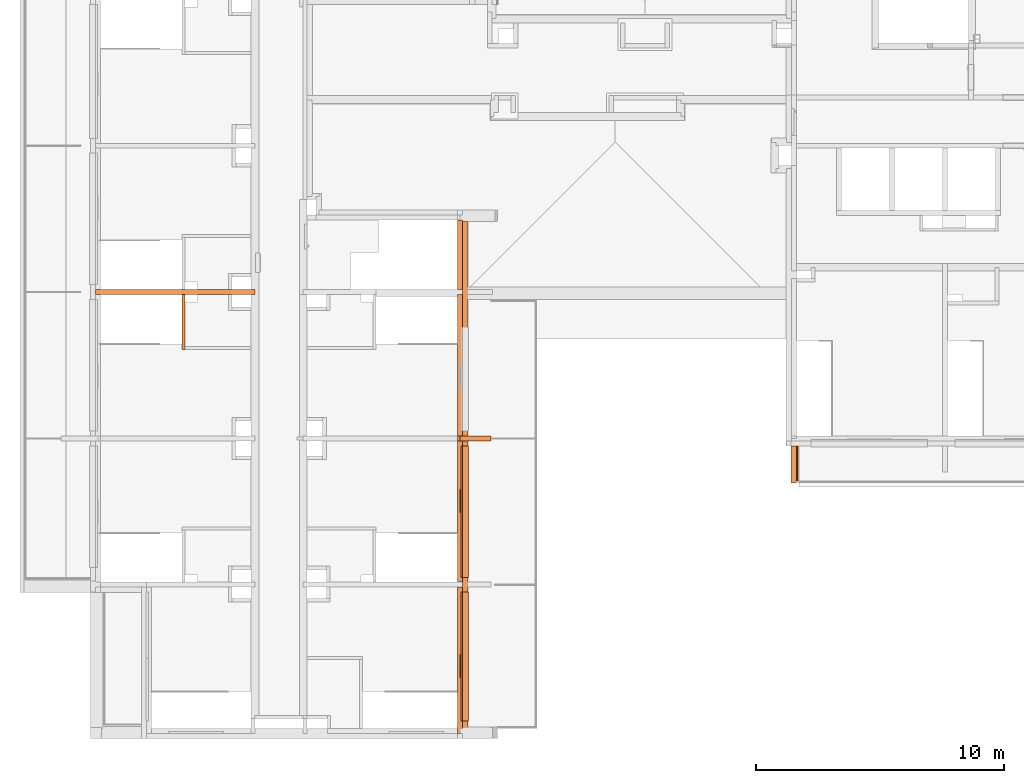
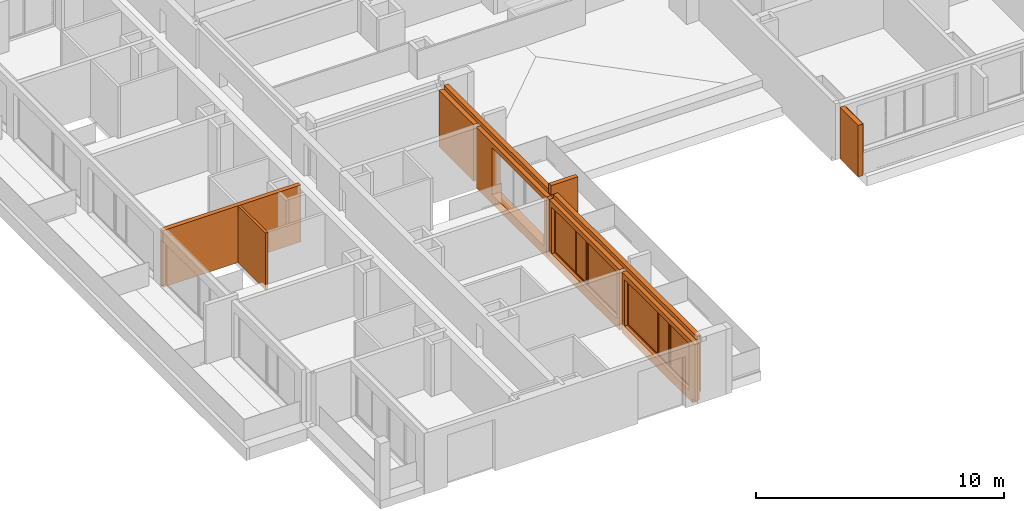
# One storey, part 16 of 30: 8 proxies, 4 openings.
"""IFC2X3 building model written with IfcOpenShell, lengths in millimetres."""

from ifc_helpers import new_model, entity, si_unit, converted_unit, derived_unit, money_unit, direction, frame, origin_with_axes, origin_2d_with_axis, place, context, subcontext, project, spatial, polyline, rectangle, outline, extrude, open_shell, faceted_brep, surface_model, material, material_list, type_object, element, fill, save


model = new_model("IFC2X3")

# Units and contexts
model_context = context("Model", 3, precision=0.01, world=origin_with_axes(), true_north=direction((0.34421633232, 0.938890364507)))
body_context = subcontext(model_context, "Body", "Model", "MODEL_VIEW")
ifc_project = project(units=[si_unit("LENGTHUNIT", "METRE", prefix="MILLI"), si_unit("AREAUNIT", "SQUARE_METRE"), si_unit("VOLUMEUNIT", "CUBIC_METRE"), converted_unit("PLANEANGLEUNIT", "DEGREE", entity("IfcPlaneAngleMeasure", 0.0174532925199), si_unit("PLANEANGLEUNIT", "RADIAN"), dimensions=[0, 0, 0, 0, 0, 0, 0]), si_unit("SOLIDANGLEUNIT", "STERADIAN"), money_unit("USD"), converted_unit("TIMEUNIT", "Year", entity("IfcTimeMeasure", 31556926.0), si_unit("TIMEUNIT", "SECOND"), dimensions=[0, 0, 1, 0, 0, 0, 0]), si_unit("MASSUNIT", "GRAM", prefix="KILO"), si_unit("THERMODYNAMICTEMPERATUREUNIT", "DEGREE_CELSIUS"), si_unit("LUMINOUSINTENSITYUNIT", "LUMEN"), si_unit("ENERGYUNIT", "JOULE", prefix="MEGA"), derived_unit("THERMALCONDUCTANCEUNIT", [(si_unit("POWERUNIT", "WATT"), 1), (si_unit("LENGTHUNIT", "METRE"), -1), (si_unit("THERMODYNAMICTEMPERATUREUNIT", "KELVIN"), -1)]), derived_unit("SPECIFICHEATCAPACITYUNIT", [(si_unit("ENERGYUNIT", "JOULE"), 1), (si_unit("MASSUNIT", "GRAM", prefix="KILO"), -1), (si_unit("THERMODYNAMICTEMPERATUREUNIT", "KELVIN"), -1)]), derived_unit("MASSDENSITYUNIT", [(si_unit("MASSUNIT", "GRAM", prefix="KILO"), 1), (si_unit("VOLUMEUNIT", "CUBIC_METRE"), -1)])], contexts=[model_context])

# Site, building, storey
site_placement = place(None, origin_with_axes())
site = spatial("IfcSite", under=ifc_project, at=site_placement, Name="USTRONIE MORSKIE", CompositionType="ELEMENT")
building_placement = place(site_placement, origin_with_axes())
building = spatial("IfcBuilding", under=site, at=building_placement, Name="Budynek", CompositionType="ELEMENT")
storey_placement = place(building_placement, frame((0.0, 0.0, 16000.0), z_axis=(0.0, 0.0, 1.0), x_axis=(1.0, 0.0, 0.0)))
storey = spatial("IfcBuildingStorey", under=building, at=storey_placement, Name="ANTRESOLA - KOND. TECHNICZNA", CompositionType="ELEMENT", Elevation=16000.0)

# Proxy
ifc_material_1 = material(Name="Bloczki silikatowe")
building_element_proxy_type_1 = type_object("IfcBuildingElementProxyType", Name="Bloczki silikatowe 120", PredefinedType="NOTDEFINED")
proxy_1_placement = place(storey_placement, frame((354717.920919, 724641.180542, -159.999998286), z_axis=(0.0, 0.0, 1.0), x_axis=(0.0, 1.0, 0.0)))
element("IfcBuildingElementProxy", 1, at=proxy_1_placement, inside=storey, type_object=building_element_proxy_type_1, material=ifc_material_1, Name="SW-04", context=body_context, shape_type="Brep", body=[
    faceted_brep([(2160.01849378, 60.0, 0.0), (2160.01849378, -60.0, 0.0), (-59.9999999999, -60.0, 0.0), (-59.9999999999, 60.0, 0.0), (2160.01849378, 60.0, 2799.99999829), (2160.01849378, -60.0, 2799.99999829), (-59.9999999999, -60.0, 2799.99999829), (-59.9999999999, 60.0, 2799.99999829)], [[[0, 1, 2, 3]], [[1, 0, 4, 5]], [[1, 5, 6, 2]], [[7, 3, 2, 6]], [[4, 0, 3, 7]], [[5, 4, 7, 6]]]),
])

# Proxies, openings
ifc_material_2 = material(Name="Beton konstrukcyjny B25")
ifc_material_3 = material(Name="Wełna ELEW")
ifc_material_4 = material(Name="Tynk zewnętrzny")
ifc_material_list_1 = material_list([ifc_material_2, ifc_material_3, ifc_material_4])
building_element_proxy_type_2 = type_object("IfcBuildingElementProxyType", Name="20+20 410", PredefinedType="NOTDEFINED")
proxy_2_placement = place(storey_placement, frame((365867.920919, 709201.199036, -359.999998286), z_axis=(0.0, 0.0, 1.0), x_axis=(0.0, 1.0, 0.0)))
proxy_2 = element("IfcBuildingElementProxy", 2, at=proxy_2_placement, inside=storey, type_object=building_element_proxy_type_2, material=ifc_material_list_1, Name="SZ-01", context=body_context, shape_type="Brep", body=[
    faceted_brep([(5800.0, 100.0, 2999.99999829), (5800.0, -100.0, 2999.99999829), (5800.0, -100.0, 0.0), (5800.0, 100.0, 0.0), (-99.9999999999, -100.0, 2999.99999829), (-99.9999999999, 100.0, 2999.99999829), (-100.0, -100.0, 199.999998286), (100.0, -100.0, 199.999998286), (100.0, -100.0, 0.0), (100.0, 100.0, 0.0), (100.0, 100.0, 199.999998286), (-100.0, 100.0, 199.999998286)], [[[0, 1, 2, 3]], [[4, 1, 0, 5]], [[1, 4, 6, 7, 8, 2]], [[2, 8, 9, 3]], [[5, 0, 3, 9, 10, 11]], [[4, 5, 11, 6]], [[7, 6, 11, 10]], [[9, 8, 7, 10]]]),
    faceted_brep([(20599.9996361, 100.000014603, 2999.99999829), (20599.9996361, -100.0, 2999.99999829), (20599.9996361, -100.0, 199.999998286), (20599.9996361, 99.9999979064, 199.999998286), (17799.999988, -100.0, 2999.99999829), (17799.999988, 99.9999989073, 2999.99999829), (17799.9998197, -100.0, 199.999998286), (17799.9998197, 99.9999836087, 199.999998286)], [[[0, 1, 2, 3]], [[4, 1, 0, 5]], [[1, 4, 6, 2]], [[3, 2, 6, 7]], [[5, 0, 3, 7]], [[4, 5, 7, 6]]]),
    faceted_brep([(11700.0, 99.9999842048, 2999.99999829), (11700.0, -100.0, 2999.99999829), (11700.0, -100.0, 179.999998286), (11700.0, 99.9999842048, 179.999998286), (6000.0, -100.0, 2999.99999829), (6000.0, 100.0, 2999.99999829), (17600.0, -100.0, 2999.99999829), (11900.0225213, -100.0, 2999.99999829), (11900.0225213, -100.0, 199.999998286), (11900.0, -100.0, 199.999998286), (11900.0, -100.0, 179.999998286), (6000.0, -100.0, 0.0), (17600.0, -100.0, 0.0), (11900.0, 99.9999842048, 179.999998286), (11900.0223371, 100.0, 2999.99999829), (17600.0, 100.0, 2999.99999829), (17600.0, 100.0, 0.0), (6000.0, 100.0, 0.0), (11900.0, 99.9999842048, 199.999998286), (11900.0223371, 100.0, 199.999998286)], [[[0, 1, 2, 3]], [[4, 1, 0, 5]], [[6, 7, 8, 9, 10, 2, 1, 4, 11, 12]], [[3, 2, 10, 13]], [[14, 15, 16, 17, 5, 0, 3, 13, 18, 19]], [[4, 5, 17, 11]], [[7, 6, 15, 14]], [[7, 14, 19, 8]], [[19, 18, 9, 8]], [[13, 10, 9, 18]], [[12, 11, 17, 16]], [[15, 6, 12, 16]]]),
    faceted_brep([(100.0, -300.0, 440.0), (11700.0, -300.0, 440.0), (11700.0, -300.0, 3199.99999829), (100.0, -300.0, 3199.99999829), (11700.0, -99.9999091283, 440.0), (100.0, -99.9999091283, 440.0), (11700.0, -100.0, 3199.99999829), (100.0, -100.0, 3199.99999829)], [[[0, 1, 2, 3]], [[4, 1, 0, 5]], [[1, 4, 6, 2]], [[3, 2, 6, 7]], [[5, 0, 3, 7]], [[4, 5, 7, 6]]]),
    faceted_brep([(17600.0, -300.0, 440.0), (17600.0, -300.0, 205.0), (20549.9996361, -300.0, 204.999998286), (20549.9996361, -300.0, 3199.99999829), (11900.0, -300.0, 3199.99999829), (11900.0, -300.0, 440.0), (17600.0, -99.9999091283, 440.0), (17600.0, -99.9999091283, 0.0), (17600.0, -149.999864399, 0.0), (17600.0, -149.999864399, 205.0), (17799.9998197, -149.999864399, 204.999998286), (17799.9998197, -100.0, 204.999998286), (20549.9996361, -100.0, 204.999998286), (20549.9996361, -100.0, 3199.99999829), (11900.0, -100.0, 3199.99999829), (11900.0, -99.9999091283, 440.0), (17799.9998197, -100.0, -1.71373315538e-06), (17799.9998197, -149.999864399, -1.71373315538e-06)], [[[0, 1, 2, 3, 4, 5]], [[0, 6, 7, 8, 9, 1]], [[1, 9, 10, 11, 12, 2]], [[2, 12, 13, 3]], [[4, 3, 13, 14]], [[15, 5, 4, 14]], [[0, 5, 15, 6]], [[6, 15, 14, 13, 12, 11, 16, 7]], [[8, 7, 16, 17]], [[9, 8, 17, 10]], [[11, 10, 17, 16]]]),
    faceted_brep([(150.0, -310.0, 440.0), (11700.0, -310.0, 440.0), (11700.0, -310.0, 3199.99999829), (150.0, -310.0, 3199.99999829), (11700.0, -300.0, 440.0), (150.0, -300.0, 440.0), (11700.0, -300.0, 3199.99999829), (150.0, -300.0, 3199.99999829)], [[[0, 1, 2, 3]], [[4, 1, 0, 5]], [[1, 4, 6, 2]], [[3, 2, 6, 7]], [[5, 0, 3, 7]], [[4, 5, 7, 6]]]),
    faceted_brep([(17600.0, -310.0, 440.0), (17600.0, -310.0, 415.0), (17600.0, -310.0, 355.0), (17600.0, -310.0, 205.0), (20539.9996361, -310.0, 204.999998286), (20539.9996361, -310.0, 3199.99999829), (11900.0, -310.0, 3199.99999829), (11900.0, -310.0, 440.0), (17600.0, -300.0, 440.0), (17600.0, -300.0, 415.0), (17600.0, -300.0, 355.0), (17600.0, -300.0, 205.0), (20539.9996361, -300.0, 204.999998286), (20539.9996361, -300.0, 3199.99999829), (11900.0, -300.0, 3199.99999829), (11900.0, -300.0, 440.0)], [[[0, 1, 2, 3, 4, 5, 6, 7]], [[1, 0, 8, 9]], [[1, 9, 10, 2]], [[2, 10, 11, 3]], [[3, 11, 12, 4]], [[4, 12, 13, 5]], [[6, 5, 13, 14]], [[15, 7, 6, 14]], [[0, 7, 15, 8]], [[8, 15, 14, 13, 12, 11, 10, 9]]]),
])
opening_1_placement = place(proxy_2_placement, frame((16825.0382556, 0.0, 359.999998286), z_axis=(0.0, 0.0, 1.0), x_axis=(1.0, 0.0, 0.0)))
element("IfcOpeningElement", 3, at=opening_1_placement, cuts=proxy_2, Name="Okna-005", context=body_context, shape_type="SweptSolid", body=[
    extrude(outline(polyline([(-525.0, 0.0), (525.0, 0.0), (525.0, 2390.0), (-525.0, 2390.0), (-525.0, 0.0)])), frame((0.0, -300.0, 0.0), z_axis=(0.0, -1.0, 0.0), x_axis=(1.0, 0.0, 0.0)), (0.0, 0.0, 1.0), 420.0),
])
opening_2_placement = place(proxy_2_placement, frame((14200.0201894, 0.0, 449.999998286), z_axis=(0.0, 0.0, 1.0), x_axis=(1.0, 0.0, 0.0)))
element("IfcOpeningElement", 4, at=opening_2_placement, cuts=proxy_2, Name="Wz.06", context=body_context, shape_type="SweptSolid", body=[
    extrude(rectangle(XDim=4200.04037874, YDim=2300.0, at=origin_2d_with_axis()), frame((0.0, -100.0, 1150.0), z_axis=(0.0, -1.0, 0.0), x_axis=(-1.0, 0.0, 0.0)), (0.0, 0.0, 1.0), 620.0),
    extrude(rectangle(XDim=4200.04037874, YDim=2300.0, at=origin_2d_with_axis()), frame((0.0, -100.0, 1150.0), z_axis=(0.0, 1.0, 0.0), x_axis=(-1.0, 0.0, 0.0)), (0.0, 0.0, 1.0), 610.0),
])
opening_3_placement = place(proxy_2_placement, frame((8850.0, 0.0, 449.999998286), z_axis=(0.0, 0.0, 1.0), x_axis=(1.0, 0.0, 0.0)))
opening_3 = element("IfcOpeningElement", 5, at=opening_3_placement, cuts=proxy_2, Name="Wz.06", context=body_context, shape_type="SweptSolid", body=[
    extrude(rectangle(XDim=5300.0, YDim=2300.0, at=origin_2d_with_axis()), frame((0.0, -100.0, 1150.0), z_axis=(0.0, 1.0, 0.0), x_axis=(1.0, 0.0, 0.0)), (0.0, 0.0, -1.0), 620.0),
    extrude(rectangle(XDim=5300.0, YDim=2300.0, at=origin_2d_with_axis()), frame((0.0, -100.0, 1150.0), z_axis=(0.0, -1.0, 0.0), x_axis=(1.0, 0.0, 0.0)), (0.0, 0.0, -1.0), 610.0),
])
opening_4_placement = place(proxy_2_placement, frame((3000.00968323, 0.0, 449.999998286), z_axis=(0.0, 0.0, 1.0), x_axis=(1.0, 0.0, 0.0)))
opening_4 = element("IfcOpeningElement", 6, at=opening_4_placement, cuts=proxy_2, Name="Wz.06", context=body_context, shape_type="SweptSolid", body=[
    extrude(rectangle(XDim=5199.98063354, YDim=2300.0, at=origin_2d_with_axis()), frame((0.0, -100.0, 1150.0), z_axis=(0.0, -1.0, 0.0), x_axis=(-1.0, 0.0, 0.0)), (0.0, 0.0, 1.0), 620.0),
    extrude(rectangle(XDim=5199.98063354, YDim=2300.0, at=origin_2d_with_axis()), frame((0.0, -100.0, 1150.0), z_axis=(0.0, 1.0, 0.0), x_axis=(-1.0, 0.0, 0.0)), (0.0, 0.0, 1.0), 610.0),
])
building_element_proxy_type_3 = type_object("IfcBuildingElementProxyType", Name="Okno potrójne 23", PredefinedType="NOTDEFINED")
proxy_3_placement = place(opening_3_placement, frame((-2650.0, 0.0, 0.0), z_axis=(0.0, 0.0, 1.0), x_axis=(1.0, 0.0, 0.0)))
proxy_3 = element("IfcBuildingElementProxy", 7, at=proxy_3_placement, inside=storey, type_object=building_element_proxy_type_3, Name="Wz.06", context=body_context, shape_type="SurfaceModel", body=[
    faceted_brep([(0.0, -100.0, 5.0), (0.0, -310.0, 5.0), (0.0, -310.0, 18.9943663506), (0.0, -100.0, 30.0), (5300.0, -100.0, 5.0), (5300.0, -310.0, 5.0), (5300.0, -340.0, 5.0), (0.0, -340.0, 5.0), (0.0, -340.0, 17.4221329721), (5300.0, -340.0, 17.4221329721), (5300.0, -310.0, 18.9943663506), (5300.0, -100.0, 30.0)], [[[0, 1, 2, 3]], [[0, 4, 5, 6, 7, 1]], [[1, 7, 8, 2]], [[3, 2, 8, 9, 10, 11]], [[4, 0, 3, 11]], [[5, 4, 11, 10]], [[6, 5, 10, 9]], [[7, 6, 9, 8]]]),
    faceted_brep([(0.0, -100.0, 0.0), (0.0, -310.0, 0.0), (0.0, -310.0, 5.0), (0.0, -100.0, 5.0), (5300.0, -100.0, 0.0), (5300.0, -310.0, 0.0), (5300.0, -310.0, 5.0), (5300.0, -100.0, 5.0)], [[[0, 1, 2, 3]], [[0, 4, 5, 1]], [[1, 5, 6, 2]], [[3, 2, 6, 7]], [[4, 0, 3, 7]], [[5, 4, 7, 6]]]),
    faceted_brep([(3522.5, -60.0, 2230.0), (3522.5, -100.0, 2230.0), (3587.5, -100.0, 2230.0), (3587.5, -35.0, 2230.0), (3547.5, -35.0, 2230.0), (3547.5, -60.0, 2230.0), (3522.5, -60.0, 70.0), (3522.5, -100.0, 70.0), (3587.5, -100.0, 70.0), (3587.5, -35.0, 70.0), (3547.5, -35.0, 70.0), (3547.5, -60.0, 70.0)], [[[0, 1, 2, 3, 4, 5]], [[6, 7, 1, 0]], [[8, 2, 1, 7]], [[9, 3, 2, 8]], [[4, 3, 9, 10]], [[10, 11, 5, 4]], [[5, 11, 6, 0]], [[11, 10, 9, 8, 7, 6]]]),
    faceted_brep([(2612.5, -35.0, 2230.0), (2572.5, -35.0, 2230.0), (2572.5, -100.0, 2230.0), (2637.5, -100.0, 2230.0), (2637.5, -60.0, 2230.0), (2612.5, -60.0, 2230.0), (2612.5, -35.0, 70.0), (2572.5, -35.0, 70.0), (2572.5, -100.0, 70.0), (2637.5, -100.0, 70.0), (2637.5, -60.0, 70.0), (2612.5, -60.0, 70.0)], [[[0, 1, 2, 3, 4, 5]], [[6, 7, 1, 0]], [[1, 7, 8, 2]], [[2, 8, 9, 3]], [[4, 3, 9, 10]], [[10, 11, 5, 4]], [[5, 11, 6, 0]], [[11, 10, 9, 8, 7, 6]]]),
    faceted_brep([(3522.5, -60.0, 70.0), (3522.5, -100.0, 70.0), (3587.5, -100.0, 70.0), (3587.5, -35.0, 70.0), (3547.5, -35.0, 70.0), (3547.5, -60.0, 70.0), (2637.5, -60.0, 70.0), (2637.5, -100.0, 70.0), (0.0, -100.0, 70.0), (0.0, -100.0, 0.0), (5300.0, -100.0, 0.0), (5300.0, -100.0, 70.0), (5230.0, -100.0, 70.0), (2572.5, -100.0, 70.0), (70.0000000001, -100.0, 70.0), (5230.0, -35.0, 70.0), (2612.5, -35.0, 45.0), (3547.5, -35.0, 45.0), (5300.0, -35.0, 70.0), (5300.0, -35.0, 0.0), (0.0, -35.0, 0.0), (0.0, -35.0, 70.0), (70.0000000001, -35.0, 70.0), (2572.5, -35.0, 70.0), (2612.5, -35.0, 70.0), (3547.5, -60.0, 45.0), (2612.5, -60.0, 45.0), (2612.5, -60.0, 70.0)], [[[0, 1, 2, 3, 4, 5]], [[6, 7, 1, 0]], [[8, 9, 10, 11, 12, 2, 1, 7, 13, 14]], [[15, 3, 2, 12]], [[16, 17, 4, 3, 15, 18, 19, 20, 21, 22, 23, 24]], [[17, 25, 5, 4]], [[5, 25, 26, 27, 6, 0]], [[27, 24, 23, 13, 7, 6]], [[21, 20, 9, 8]], [[20, 19, 10, 9]], [[19, 18, 11, 10]], [[18, 15, 12, 11]], [[23, 22, 14, 13]], [[22, 21, 8, 14]], [[16, 26, 25, 17]], [[27, 26, 16, 24]]]),
    faceted_brep([(2612.5, -35.0, 2230.0), (2572.5, -35.0, 2230.0), (70.0000000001, -35.0, 2230.0), (0.0, -35.0, 2230.0), (0.0, -35.0, 2300.0), (5300.0, -35.0, 2300.0), (5300.0, -35.0, 2230.0), (5230.0, -35.0, 2230.0), (3587.5, -35.0, 2230.0), (3547.5, -35.0, 2230.0), (3547.5, -35.0, 2255.0), (2612.5, -35.0, 2255.0), (2612.5, -60.0, 2230.0), (2637.5, -60.0, 2230.0), (2637.5, -100.0, 2230.0), (2572.5, -100.0, 2230.0), (70.0000000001, -100.0, 2230.0), (0.0, -100.0, 2230.0), (0.0, -100.0, 2300.0), (5300.0, -100.0, 2300.0), (5300.0, -100.0, 2230.0), (5230.0, -100.0, 2230.0), (3587.5, -100.0, 2230.0), (3547.5, -60.0, 2230.0), (3522.5, -100.0, 2230.0), (3522.5, -60.0, 2230.0), (3547.5, -60.0, 2255.0), (2612.5, -60.0, 2255.0)], [[[0, 1, 2, 3, 4, 5, 6, 7, 8, 9, 10, 11]], [[12, 13, 14, 15, 1, 0]], [[2, 1, 15, 16]], [[3, 2, 16, 17]], [[4, 3, 17, 18]], [[5, 4, 18, 19]], [[6, 5, 19, 20]], [[7, 6, 20, 21]], [[8, 7, 21, 22]], [[23, 9, 8, 22, 24, 25]], [[9, 23, 26, 10]], [[10, 26, 27, 11]], [[11, 27, 12, 0]], [[25, 13, 12, 27, 26, 23]], [[25, 24, 14, 13]], [[14, 24, 22, 21, 20, 19, 18, 17, 16, 15]]]),
    faceted_brep([(70.0000000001, -100.0, 2230.0), (70.0000000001, -35.0, 2230.0), (0.0, -35.0, 2230.0), (0.0, -100.0, 2230.0), (70.0000000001, -100.0, 70.0), (70.0000000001, -35.0, 70.0), (0.0, -35.0, 70.0), (0.0, -100.0, 70.0)], [[[0, 1, 2, 3]], [[4, 5, 1, 0]], [[1, 5, 6, 2]], [[3, 2, 6, 7]], [[0, 3, 7, 4]], [[7, 6, 5, 4]]]),
    faceted_brep([(5230.0, -100.0, 70.0), (5230.0, -35.0, 70.0), (5300.0, -35.0, 70.0), (5300.0, -100.0, 70.0), (5230.0, -100.0, 2230.0), (5230.0, -35.0, 2230.0), (5300.0, -35.0, 2230.0), (5300.0, -100.0, 2230.0)], [[[0, 1, 2, 3]], [[4, 5, 1, 0]], [[1, 5, 6, 2]], [[3, 2, 6, 7]], [[0, 3, 7, 4]], [[7, 6, 5, 4]]]),
    surface_model("IfcShellBasedSurfaceModel", [(70.0000000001, -70.0000000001, 70.0), (2572.5, -70.0000000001, 70.0), (2572.5, -70.0000000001, 2230.0), (70.0000000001, -70.0000000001, 2230.0)], [open_shell([[[0, 1, 2, 3]]])]),
    surface_model("IfcShellBasedSurfaceModel", [(70.0000000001, -50.0, 70.0), (70.0000000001, -50.0, 2230.0), (2572.5, -50.0, 2230.0), (2572.5, -50.0, 70.0)], [open_shell([[[0, 1, 2, 3]]])]),
    faceted_brep([(2677.5, -60.0, 2190.0), (2677.5, 5.0, 2190.0), (2612.5, 5.0, 2190.0), (2612.5, -60.0, 2190.0), (2677.5, -60.0, 110.0), (2677.5, 5.0, 110.0), (2612.5, 5.0, 110.0), (2612.5, -60.0, 110.0)], [[[0, 1, 2, 3]], [[4, 5, 1, 0]], [[1, 5, 6, 2]], [[3, 2, 6, 7]], [[0, 3, 7, 4]], [[7, 6, 5, 4]]]),
    faceted_brep([(3482.5, -60.0, 110.0), (3482.5, 5.0, 110.0), (3547.5, 5.0, 110.0), (3547.5, -60.0, 110.0), (3482.5, -60.0, 2190.0), (3482.5, 5.0, 2190.0), (3547.5, 5.0, 2190.0), (3547.5, -60.0, 2190.0)], [[[0, 1, 2, 3]], [[4, 5, 1, 0]], [[1, 5, 6, 2]], [[3, 2, 6, 7]], [[0, 3, 7, 4]], [[7, 6, 5, 4]]]),
    faceted_brep([(3547.5, -60.0, 45.0), (3547.5, 5.0, 45.0), (3547.5, 5.0, 110.0), (3547.5, -60.0, 110.0), (2612.5, -60.0, 45.0), (2612.5, 5.0, 45.0), (2612.5, 5.0, 110.0), (2677.5, 5.0, 110.0), (3482.5, 5.0, 110.0), (3482.5, -60.0, 110.0), (2677.5, -60.0, 110.0), (2612.5, -60.0, 110.0)], [[[0, 1, 2, 3]], [[4, 5, 1, 0]], [[1, 5, 6, 7, 8, 2]], [[3, 2, 8, 9]], [[0, 3, 9, 10, 11, 4]], [[11, 6, 5, 4]], [[10, 7, 6, 11]], [[9, 8, 7, 10]]]),
    faceted_brep([(2612.5, -60.0, 2255.0), (2612.5, 5.0, 2255.0), (2612.5, 5.0, 2190.0), (2612.5, -60.0, 2190.0), (3547.5, -60.0, 2255.0), (3547.5, 5.0, 2255.0), (3547.5, 5.0, 2190.0), (3482.5, 5.0, 2190.0), (2677.5, 5.0, 2190.0), (2677.5, -60.0, 2190.0), (3482.5, -60.0, 2190.0), (3547.5, -60.0, 2190.0)], [[[0, 1, 2, 3]], [[4, 5, 1, 0]], [[1, 5, 6, 7, 8, 2]], [[3, 2, 8, 9]], [[0, 3, 9, 10, 11, 4]], [[11, 6, 5, 4]], [[10, 7, 6, 11]], [[9, 8, 7, 10]]]),
    surface_model("IfcShellBasedSurfaceModel", [(2677.5, -37.5, 110.0), (3482.5, -37.5, 110.0), (3482.5, -37.5, 2190.0), (2677.5, -37.5, 2190.0)], [open_shell([[[0, 1, 2, 3]]])]),
    surface_model("IfcShellBasedSurfaceModel", [(2677.5, -17.5, 110.0), (2677.5, -17.5, 2190.0), (3482.5, -17.5, 2190.0), (3482.5, -17.5, 110.0)], [open_shell([[[0, 1, 2, 3]]])]),
    surface_model("IfcShellBasedSurfaceModel", [(3587.5, -70.0000000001, 70.0), (5230.0, -70.0000000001, 70.0), (5230.0, -70.0000000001, 2230.0), (3587.5, -70.0000000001, 2230.0)], [open_shell([[[0, 1, 2, 3]]])]),
    surface_model("IfcShellBasedSurfaceModel", [(3587.5, -50.0, 70.0), (3587.5, -50.0, 2230.0), (5230.0, -50.0, 2230.0), (5230.0, -50.0, 70.0)], [open_shell([[[0, 1, 2, 3]]])]),
])
fill(opening_3, proxy_3)
proxy_4_placement = place(opening_4_placement, frame((-2599.99031677, 0.0, 0.0), z_axis=(0.0, 0.0, 1.0), x_axis=(1.0, 0.0, 0.0)))
proxy_4 = element("IfcBuildingElementProxy", 8, at=proxy_4_placement, inside=storey, type_object=building_element_proxy_type_3, Name="Wz.06", context=body_context, shape_type="SurfaceModel", body=[
    faceted_brep([(5199.98063354, -100.0, 5.0), (5199.98063354, -100.0, 30.0), (5199.98063354, -310.0, 18.9943663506), (5199.98063354, -310.0, 5.0), (0.0, -100.0, 5.0), (0.0, -100.0, 30.0), (0.0, -310.0, 18.9943663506), (0.0, -340.0, 17.4221329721), (5199.98063354, -340.0, 17.4221329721), (5199.98063354, -340.0, 5.0), (0.0, -340.0, 5.0), (0.0, -310.0, 5.0)], [[[0, 1, 2, 3]], [[4, 5, 1, 0]], [[1, 5, 6, 7, 8, 2]], [[3, 2, 8, 9]], [[0, 3, 9, 10, 11, 4]], [[11, 6, 5, 4]], [[10, 7, 6, 11]], [[9, 8, 7, 10]]]),
    faceted_brep([(5199.98063354, -100.0, 0.0), (5199.98063354, -100.0, 5.0), (5199.98063354, -310.0, 5.0), (5199.98063354, -310.0, 0.0), (0.0, -100.0, 0.0), (0.0, -100.0, 5.0), (0.0, -310.0, 5.0), (0.0, -310.0, 0.0)], [[[0, 1, 2, 3]], [[4, 5, 1, 0]], [[1, 5, 6, 2]], [[3, 2, 6, 7]], [[0, 3, 7, 4]], [[7, 6, 5, 4]]]),
    faceted_brep([(1777.5, -60.0, 2230.0), (1752.5, -60.0, 2230.0), (1752.5, -35.0, 2230.0), (1712.5, -35.0, 2230.0), (1712.5, -100.0, 2230.0), (1777.5, -100.0, 2230.0), (1777.5, -60.0, 70.0), (1752.5, -60.0, 70.0), (1752.5, -35.0, 70.0), (1712.5, -35.0, 70.0), (1712.5, -100.0, 70.0), (1777.5, -100.0, 70.0)], [[[0, 1, 2, 3, 4, 5]], [[1, 0, 6, 7]], [[8, 2, 1, 7]], [[2, 8, 9, 3]], [[9, 10, 4, 3]], [[10, 11, 5, 4]], [[6, 0, 5, 11]], [[7, 6, 11, 10, 9, 8]]]),
    faceted_brep([(2687.5, -35.0, 2230.0), (2687.5, -60.0, 2230.0), (2662.5, -60.0, 2230.0), (2662.5, -100.0, 2230.0), (2727.5, -100.0, 2230.0), (2727.5, -35.0, 2230.0), (2687.5, -35.0, 70.0), (2687.5, -60.0, 70.0), (2662.5, -60.0, 70.0), (2662.5, -100.0, 70.0), (2727.5, -100.0, 70.0), (2727.5, -35.0, 70.0)], [[[0, 1, 2, 3, 4, 5]], [[1, 0, 6, 7]], [[8, 2, 1, 7]], [[2, 8, 9, 3]], [[4, 3, 9, 10]], [[5, 4, 10, 11]], [[6, 0, 5, 11]], [[7, 6, 11, 10, 9, 8]]]),
    faceted_brep([(1777.5, -60.0, 70.0), (1752.5, -60.0, 70.0), (1752.5, -35.0, 70.0), (1712.5, -35.0, 70.0), (1712.5, -100.0, 70.0), (1777.5, -100.0, 70.0), (2662.5, -60.0, 70.0), (2687.5, -60.0, 70.0), (2687.5, -60.0, 45.0), (1752.5, -60.0, 45.0), (1752.5, -35.0, 45.0), (2687.5, -35.0, 45.0), (2687.5, -35.0, 70.0), (2727.5, -35.0, 70.0), (5129.98063354, -35.0, 70.0), (5199.98063354, -35.0, 70.0), (5199.98063354, -35.0, 0.0), (0.0, -35.0, 0.0), (0.0, -35.0, 70.0), (69.9999999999, -35.0, 70.0), (69.9999999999, -100.0, 70.0), (5199.98063354, -100.0, 70.0), (5129.98063354, -100.0, 70.0), (2727.5, -100.0, 70.0), (2662.5, -100.0, 70.0), (0.0, -100.0, 70.0), (0.0, -100.0, 0.0), (5199.98063354, -100.0, 0.0)], [[[0, 1, 2, 3, 4, 5]], [[1, 0, 6, 7, 8, 9]], [[10, 2, 1, 9]], [[11, 12, 13, 14, 15, 16, 17, 18, 19, 3, 2, 10]], [[19, 20, 4, 3]], [[21, 22, 23, 24, 5, 4, 20, 25, 26, 27]], [[6, 0, 5, 24]], [[7, 6, 24, 23, 13, 12]], [[7, 12, 11, 8]], [[11, 10, 9, 8]], [[13, 23, 22, 14]], [[14, 22, 21, 15]], [[15, 21, 27, 16]], [[16, 27, 26, 17]], [[17, 26, 25, 18]], [[18, 25, 20, 19]]]),
    faceted_brep([(2687.5, -35.0, 2230.0), (2687.5, -35.0, 2255.0), (1752.5, -35.0, 2255.0), (1752.5, -35.0, 2230.0), (1712.5, -35.0, 2230.0), (69.9999999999, -35.0, 2230.0), (0.0, -35.0, 2230.0), (0.0, -35.0, 2300.0), (5199.98063354, -35.0, 2300.0), (5199.98063354, -35.0, 2230.0), (5129.98063354, -35.0, 2230.0), (2727.5, -35.0, 2230.0), (2687.5, -60.0, 2230.0), (2687.5, -60.0, 2255.0), (1752.5, -60.0, 2255.0), (1752.5, -60.0, 2230.0), (1777.5, -60.0, 2230.0), (1777.5, -100.0, 2230.0), (1712.5, -100.0, 2230.0), (69.9999999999, -100.0, 2230.0), (0.0, -100.0, 2230.0), (0.0, -100.0, 2300.0), (5199.98063354, -100.0, 2300.0), (5199.98063354, -100.0, 2230.0), (5129.98063354, -100.0, 2230.0), (2727.5, -100.0, 2230.0), (2662.5, -100.0, 2230.0), (2662.5, -60.0, 2230.0)], [[[0, 1, 2, 3, 4, 5, 6, 7, 8, 9, 10, 11]], [[1, 0, 12, 13]], [[2, 1, 13, 14]], [[3, 2, 14, 15]], [[15, 16, 17, 18, 4, 3]], [[4, 18, 19, 5]], [[5, 19, 20, 6]], [[6, 20, 21, 7]], [[7, 21, 22, 8]], [[8, 22, 23, 9]], [[9, 23, 24, 10]], [[10, 24, 25, 11]], [[12, 0, 11, 25, 26, 27]], [[16, 15, 14, 13, 12, 27]], [[16, 27, 26, 17]], [[26, 25, 24, 23, 22, 21, 20, 19, 18, 17]]]),
    faceted_brep([(5129.98063354, -100.0, 2230.0), (5199.98063354, -100.0, 2230.0), (5199.98063354, -35.0, 2230.0), (5129.98063354, -35.0, 2230.0), (5129.98063354, -100.0, 70.0), (5199.98063354, -100.0, 70.0), (5199.98063354, -35.0, 70.0), (5129.98063354, -35.0, 70.0)], [[[0, 1, 2, 3]], [[0, 4, 5, 1]], [[1, 5, 6, 2]], [[3, 2, 6, 7]], [[4, 0, 3, 7]], [[5, 4, 7, 6]]]),
    faceted_brep([(69.9999999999, -100.0, 70.0), (0.0, -100.0, 70.0), (0.0, -35.0, 70.0), (69.9999999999, -35.0, 70.0), (69.9999999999, -100.0, 2230.0), (0.0, -100.0, 2230.0), (0.0, -35.0, 2230.0), (69.9999999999, -35.0, 2230.0)], [[[0, 1, 2, 3]], [[0, 4, 5, 1]], [[1, 5, 6, 2]], [[3, 2, 6, 7]], [[4, 0, 3, 7]], [[5, 4, 7, 6]]]),
    surface_model("IfcShellBasedSurfaceModel", [(5129.98063354, -70.0000000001, 70.0), (5129.98063354, -70.0000000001, 2230.0), (2727.5, -70.0000000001, 2230.0), (2727.5, -70.0000000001, 70.0)], [open_shell([[[0, 1, 2, 3]]])]),
    surface_model("IfcShellBasedSurfaceModel", [(5129.98063354, -50.0, 70.0), (2727.5, -50.0, 70.0), (2727.5, -50.0, 2230.0), (5129.98063354, -50.0, 2230.0)], [open_shell([[[0, 1, 2, 3]]])]),
    faceted_brep([(2622.5, -60.0, 2190.0), (2687.5, -60.0, 2190.0), (2687.5, 5.0, 2190.0), (2622.5, 5.0, 2190.0), (2622.5, -60.0, 110.0), (2687.5, -60.0, 110.0), (2687.5, 5.0, 110.0), (2622.5, 5.0, 110.0)], [[[0, 1, 2, 3]], [[0, 4, 5, 1]], [[1, 5, 6, 2]], [[3, 2, 6, 7]], [[4, 0, 3, 7]], [[5, 4, 7, 6]]]),
    faceted_brep([(1817.5, -60.0, 110.0), (1752.5, -60.0, 110.0), (1752.5, 5.0, 110.0), (1817.5, 5.0, 110.0), (1817.5, -60.0, 2190.0), (1752.5, -60.0, 2190.0), (1752.5, 5.0, 2190.0), (1817.5, 5.0, 2190.0)], [[[0, 1, 2, 3]], [[0, 4, 5, 1]], [[1, 5, 6, 2]], [[3, 2, 6, 7]], [[4, 0, 3, 7]], [[5, 4, 7, 6]]]),
    faceted_brep([(1752.5, -60.0, 45.0), (1752.5, -60.0, 110.0), (1752.5, 5.0, 110.0), (1752.5, 5.0, 45.0), (2687.5, -60.0, 45.0), (2687.5, -60.0, 110.0), (2622.5, -60.0, 110.0), (1817.5, -60.0, 110.0), (1817.5, 5.0, 110.0), (2622.5, 5.0, 110.0), (2687.5, 5.0, 110.0), (2687.5, 5.0, 45.0)], [[[0, 1, 2, 3]], [[0, 4, 5, 6, 7, 1]], [[1, 7, 8, 2]], [[3, 2, 8, 9, 10, 11]], [[4, 0, 3, 11]], [[5, 4, 11, 10]], [[6, 5, 10, 9]], [[7, 6, 9, 8]]]),
    faceted_brep([(2687.5, -60.0, 2255.0), (2687.5, -60.0, 2190.0), (2687.5, 5.0, 2190.0), (2687.5, 5.0, 2255.0), (1752.5, -60.0, 2255.0), (1752.5, -60.0, 2190.0), (1817.5, -60.0, 2190.0), (2622.5, -60.0, 2190.0), (2622.5, 5.0, 2190.0), (1817.5, 5.0, 2190.0), (1752.5, 5.0, 2190.0), (1752.5, 5.0, 2255.0)], [[[0, 1, 2, 3]], [[0, 4, 5, 6, 7, 1]], [[1, 7, 8, 2]], [[3, 2, 8, 9, 10, 11]], [[4, 0, 3, 11]], [[5, 4, 11, 10]], [[6, 5, 10, 9]], [[7, 6, 9, 8]]]),
    surface_model("IfcShellBasedSurfaceModel", [(2622.5, -37.5, 110.0), (2622.5, -37.5, 2190.0), (1817.5, -37.5, 2190.0), (1817.5, -37.5, 110.0)], [open_shell([[[0, 1, 2, 3]]])]),
    surface_model("IfcShellBasedSurfaceModel", [(2622.5, -17.5, 110.0), (1817.5, -17.5, 110.0), (1817.5, -17.5, 2190.0), (2622.5, -17.5, 2190.0)], [open_shell([[[0, 1, 2, 3]]])]),
    surface_model("IfcShellBasedSurfaceModel", [(1712.5, -70.0000000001, 70.0), (1712.5, -70.0000000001, 2230.0), (69.9999999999, -70.0000000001, 2230.0), (69.9999999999, -70.0000000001, 70.0)], [open_shell([[[0, 1, 2, 3]]])]),
    surface_model("IfcShellBasedSurfaceModel", [(1712.5, -50.0, 70.0), (69.9999999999, -50.0, 70.0), (69.9999999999, -50.0, 2230.0), (1712.5, -50.0, 2230.0)], [open_shell([[[0, 1, 2, 3]]])]),
])
fill(opening_4, proxy_4)

# Proxies
building_element_proxy_type_4 = type_object("IfcBuildingElementProxyType", Name="Beton konstrukcyjny B25 200", PredefinedType="NOTDEFINED")
proxy_5_placement = place(storey_placement, frame((357517.920919, 726901.199036, -160.0), z_axis=(0.0, 0.0, 1.0), x_axis=(-1.0, 0.0, 0.0)))
element("IfcBuildingElementProxy", 9, at=proxy_5_placement, inside=storey, type_object=building_element_proxy_type_4, material=ifc_material_2, Name="SW-01", context=body_context, shape_type="Brep", body=[
    faceted_brep([(-80.0, -100.0, 0.0), (-80.0, 100.0, 0.0), (6350.0, 100.0, 0.0), (6350.0, -100.0, 0.0), (-80.0, -100.0, 2800.0), (-80.0, 100.0, 2800.0), (6350.0, 100.0, 2800.0), (6350.0, -100.0, 2800.0)], [[[0, 1, 2, 3]], [[0, 4, 5, 1]], [[1, 5, 6, 2]], [[6, 7, 3, 2]], [[4, 0, 3, 7]], [[5, 4, 7, 6]]]),
])
proxy_6_placement = place(storey_placement, frame((365867.920919, 721001.199036, -180.0), z_axis=(0.0, 0.0, 1.0), x_axis=(1.0, 0.0, 0.0)))
element("IfcBuildingElementProxy", 10, at=proxy_6_placement, inside=storey, type_object=building_element_proxy_type_4, material=ifc_material_2, Name="SW-01", context=body_context, shape_type="Brep", body=[
    faceted_brep([(1250.00004438, -100.0, 3470.0), (1250.00004438, -100.0, 20.0000017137), (1250.00004438, 100.0, 20.0000017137), (1250.00004438, 100.0, 3470.0), (99.9999091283, -100.0, 0.0), (99.9999091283, -100.0, 20.0000017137), (0.0, -100.0, 3470.0), (0.0, -100.0, 3020.0), (100.0, -100.0, 3020.0), (100.0, -100.0, 2820.0), (-80.0, -100.0, 2820.0), (-99.9999842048, -100.0, 2820.0), (-99.9999842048, -100.0, 0.0), (99.9999091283, 100.0, 20.0000017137), (99.9999091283, 100.0, 0.0), (-99.9999842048, 100.0, 0.0), (-99.9999842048, 100.0, 2820.0), (-80.0, 100.0, 2820.0), (100.0, 100.0, 2820.0), (100.0, 100.0, 3020.0), (0.0, 100.0, 3020.0), (0.0, 100.0, 3470.0)], [[[0, 1, 2, 3]], [[4, 5, 1, 0, 6, 7, 8, 9, 10, 11, 12]], [[5, 13, 2, 1]], [[2, 13, 14, 15, 16, 17, 18, 19, 20, 21, 3]], [[0, 3, 21, 6]], [[4, 14, 13, 5]], [[21, 20, 7, 6]], [[7, 20, 19, 8]], [[8, 19, 18, 9]], [[18, 17, 16, 11, 10, 9]], [[12, 11, 16, 15]], [[15, 14, 4, 12]]]),
])
ifc_material_5 = material(Name="Laminat")
building_element_proxy_type_5 = type_object("IfcBuildingElementProxyType", Name="Laminat 80", PredefinedType="NOTDEFINED")
proxy_7_placement = place(storey_placement, frame((379467.920919, 720691.199036, 79.9999979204), z_axis=(0.0, 0.0, 1.0), x_axis=(0.0, -1.0, 0.0)))
element("IfcBuildingElementProxy", 11, at=proxy_7_placement, inside=storey, type_object=building_element_proxy_type_5, material=ifc_material_5, Name="Œciana-008", context=body_context, shape_type="Brep", body=[
    faceted_brep([(0.0, -40.0, 0.0), (0.0, 40.0, 0.0), (1390.0, 40.0, 0.0), (1390.0, -40.0, 0.0), (0.0, -40.0, 2460.00000208), (0.0, 40.0, 2460.00000208), (1390.0, 40.0, 2460.00000208), (1390.0, -40.0, 2460.00000208)], [[[0, 1, 2, 3]], [[4, 5, 1, 0]], [[1, 5, 6, 2]], [[7, 3, 2, 6]], [[4, 0, 3, 7]], [[5, 4, 7, 6]]]),
])
ifc_material_list_2 = material_list([ifc_material_4, ifc_material_1, ifc_material_4])
building_element_proxy_type_6 = type_object("IfcBuildingElementProxyType", Name="BALKON bok 04 220", PredefinedType="NOTDEFINED")
proxy_8_placement = place(storey_placement, frame((379317.920919, 720691.199036, 79.9999979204), z_axis=(0.0, 0.0, 1.0), x_axis=(0.0, -1.0, 0.0)))
element("IfcBuildingElementProxy", 12, at=proxy_8_placement, inside=storey, type_object=building_element_proxy_type_6, material=ifc_material_list_2, Name="Œciana-008", context=body_context, shape_type="Brep", body=[
    faceted_brep([(0.0, 110.0, 0.0), (1490.0, 110.0, 0.0), (1490.0, 100.0, 0.0), (0.0, 100.0, 0.0), (0.0, 110.0, 2540.00000208), (1490.0, 110.0, 2540.00000208), (1490.0, 100.0, 2540.00000208), (0.0, 100.0, 2540.00000208)], [[[0, 1, 2, 3]], [[4, 5, 1, 0]], [[2, 1, 5, 6]], [[3, 2, 6, 7]], [[4, 0, 3, 7]], [[7, 6, 5, 4]]]),
    faceted_brep([(0.0, 100.0, 0.0), (1490.0, 100.0, 0.0), (1490.0, -100.0, 0.0), (0.0, -100.0, 0.0), (0.0, 100.0, 2540.00000208), (1490.0, 100.0, 2540.00000208), (1490.0, -100.0, 2540.00000208), (0.0, -100.0, 2540.00000208)], [[[0, 1, 2, 3]], [[4, 5, 1, 0]], [[2, 1, 5, 6]], [[3, 2, 6, 7]], [[4, 0, 3, 7]], [[7, 6, 5, 4]]]),
    faceted_brep([(0.0, -100.0, 0.0), (1490.0, -100.0, 0.0), (1490.0, -110.0, 0.0), (0.0, -110.0, 0.0), (0.0, -100.0, 2540.00000208), (1490.0, -100.0, 2540.00000208), (1490.0, -110.0, 2540.00000208), (0.0, -110.0, 2540.00000208)], [[[0, 1, 2, 3]], [[4, 5, 1, 0]], [[2, 1, 5, 6]], [[3, 2, 6, 7]], [[4, 0, 3, 7]], [[7, 6, 5, 4]]]),
])

save(model, "model.ifc")
